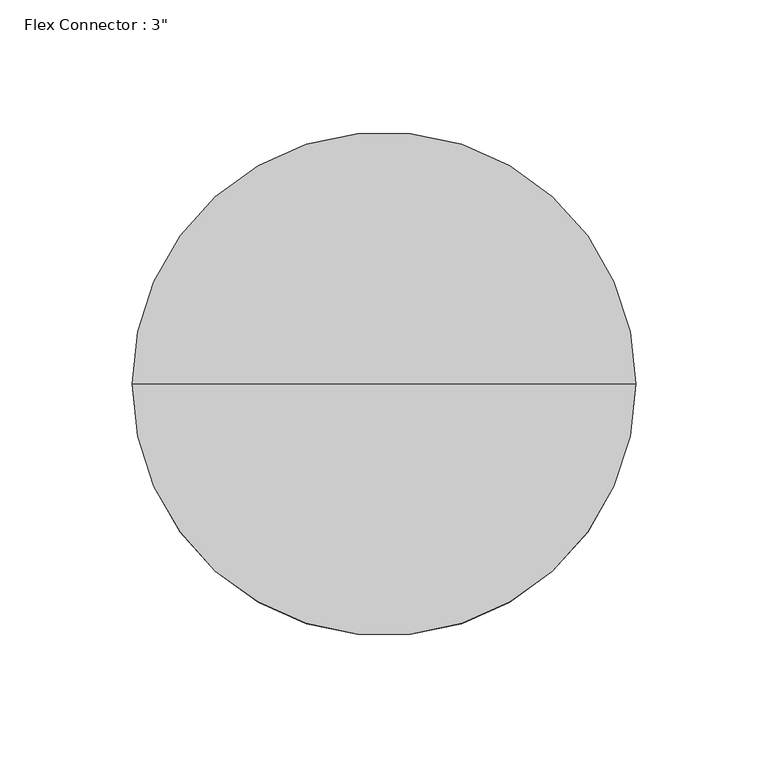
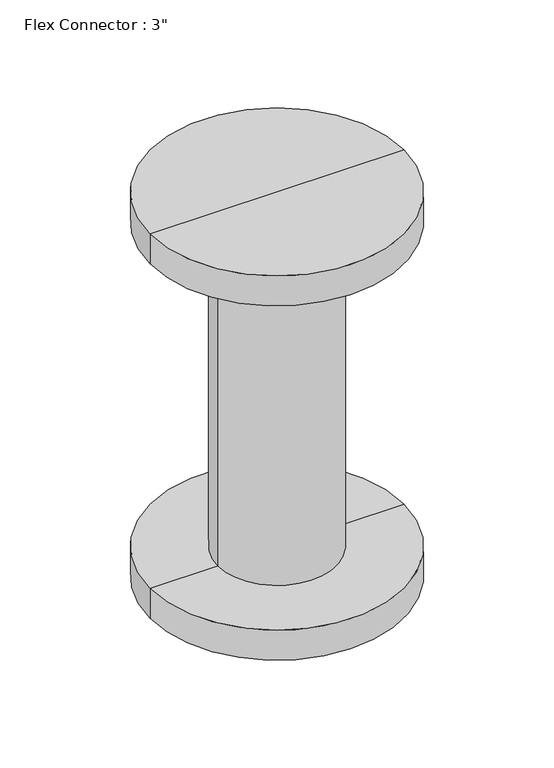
"""IFC4 building model written with IfcOpenShell, lengths in millimetres: valve geometry."""

from ifc_helpers import new_model, si_unit, frame, origin, place, context, project, spatial, circle_curve, source, transform, mapped, element, save
from ifc_brep_helpers import plane_surface, cylinder_surface, advanced_brep


def valve_cd73b2c5(model_context):
    return source(origin(), model_context, "Body", "AdvancedBrep", [
        advanced_brep(
        [(44.45, 0.0, 23.8125), (-44.45, 0.0, 23.8125), (-44.45, 0.0, 280.9875), (44.45, 0.0, 280.9875), (0.0, 0.0, 23.8125), (0.0, 0.0, 280.9875)],
        [
            (0, 1, circle_curve(frame((0.0, 0.0, 23.8125), z_axis=(0.0, 0.0, 1.0), x_axis=(-1.0, 0.0, 0.0)), 44.45)),
            (1, 2),
            (2, 3, circle_curve(frame((0.0, 0.0, 280.9875), z_axis=(0.0, 0.0, -1.0), x_axis=(-1.0, 0.0, 0.0)), 44.45)),
            (3, 0),
            (1, 0, circle_curve(frame((0.0, 0.0, 23.8125), z_axis=(0.0, 0.0, 1.0), x_axis=(-1.0, 0.0, 0.0)), 44.45)),
            (3, 2, circle_curve(frame((0.0, 0.0, 280.9875), z_axis=(0.0, 0.0, -1.0), x_axis=(-1.0, 0.0, 0.0)), 44.45)),
            (4, 1),
            (0, 4),
            (2, 5),
            (5, 3),
        ],
        [
            cylinder_surface(frame((0.0, 0.0, 2609.0581012), z_axis=(0.0, 0.0, -1.0), x_axis=(-1.0, 0.0, 0.0)), 44.45),
            plane_surface(frame((0.0, 0.0, 23.8125), z_axis=(0.0, 0.0, -1.0), x_axis=(-1.0, 0.0, 0.0))),
            plane_surface(frame((0.0, 0.0, 280.9875), z_axis=(0.0, 0.0, 1.0), x_axis=(-1.0, 0.0, 0.0))),
        ],
        [
            (0, [[1, 2, 3, 4]]),
            (0, [[5, -4, 6, -2]]),
            (1, [[7, -1, 8]]),
            (1, [[-8, -5, -7]]),
            (2, [[-3, 9, 10]]),
            (2, [[-6, -10, -9]]),
        ],
    ),
        advanced_brep(
        [(0.0, 0.0, 0.0), (-95.25, 0.0, 0.0), (95.25, 0.0, 0.0), (95.25, 0.0, 23.8125), (-95.25, 0.0, 23.8125), (0.0, 0.0, 23.8125)],
        [
            (0, 1),
            (1, 2, circle_curve(frame((0.0, 0.0, 0.0), z_axis=(0.0, 0.0, -1.0), x_axis=(-1.0, 0.0, 0.0)), 95.25)),
            (2, 0),
            (2, 1, circle_curve(frame((0.0, 0.0, 0.0), z_axis=(0.0, 0.0, -1.0), x_axis=(-1.0, 0.0, 0.0)), 95.25)),
            (3, 4, circle_curve(frame((0.0, 0.0, 23.8125), z_axis=(0.0, 0.0, 1.0), x_axis=(-1.0, 0.0, 0.0)), 95.25)),
            (4, 5),
            (5, 3),
            (4, 3, circle_curve(frame((0.0, 0.0, 23.8125), z_axis=(0.0, 0.0, 1.0), x_axis=(-1.0, 0.0, 0.0)), 95.25)),
            (1, 4),
            (3, 2),
        ],
        [
            plane_surface(frame((0.0, 0.0, 0.0), z_axis=(0.0, 0.0, -1.0), x_axis=(-1.0, 0.0, 0.0))),
            plane_surface(frame((0.0, 0.0, 23.8125), z_axis=(0.0, 0.0, 1.0), x_axis=(-1.0, 0.0, 0.0))),
            cylinder_surface(frame((0.0, 0.0, 2609.0581012), z_axis=(0.0, 0.0, -1.0), x_axis=(-1.0, 0.0, 0.0)), 95.25),
        ],
        [
            (0, [[1, 2, 3]]),
            (0, [[-3, 4, -1]]),
            (1, [[5, 6, 7]]),
            (1, [[8, -7, -6]]),
            (2, [[-2, 9, -5, 10]]),
            (2, [[-4, -10, -8, -9]]),
        ],
    ),
        advanced_brep(
        [(95.25, 0.0, 304.8), (-95.25, 0.0, 304.8), (0.0, 0.0, 304.8), (95.25, 0.0, 280.9875), (-95.25, 0.0, 280.9875), (0.0, 0.0, 280.9875)],
        [
            (0, 1, circle_curve(frame((0.0, 0.0, 304.8), z_axis=(0.0, 0.0, 1.0), x_axis=(-1.0, 0.0, 0.0)), 95.25)),
            (1, 2),
            (2, 0),
            (1, 0, circle_curve(frame((0.0, 0.0, 304.8), z_axis=(0.0, 0.0, 1.0), x_axis=(-1.0, 0.0, 0.0)), 95.25)),
            (3, 4, circle_curve(frame((0.0, 0.0, 280.9875), z_axis=(0.0, 0.0, 1.0), x_axis=(-1.0, 0.0, 0.0)), 95.25)),
            (4, 1),
            (0, 3),
            (4, 3, circle_curve(frame((0.0, 0.0, 280.9875), z_axis=(0.0, 0.0, 1.0), x_axis=(-1.0, 0.0, 0.0)), 95.25)),
            (5, 4),
            (3, 5),
        ],
        [
            plane_surface(frame((0.0, 0.0, 304.8), z_axis=(0.0, 0.0, 1.0), x_axis=(-1.0, 0.0, 0.0))),
            cylinder_surface(frame((0.0, 0.0, 2609.0581012), z_axis=(0.0, 0.0, -1.0), x_axis=(-1.0, 0.0, 0.0)), 95.25),
            plane_surface(frame((0.0, 0.0, 280.9875), z_axis=(0.0, 0.0, -1.0), x_axis=(-1.0, 0.0, 0.0))),
        ],
        [
            (0, [[1, 2, 3]]),
            (0, [[4, -3, -2]]),
            (1, [[5, 6, -1, 7]]),
            (1, [[8, -7, -4, -6]]),
            (2, [[9, -5, 10]]),
            (2, [[-10, -8, -9]]),
        ],
    ),
    ])


if __name__ == "__main__":
    model = new_model("IFC4")
    model_context = context("Model", 3, world=origin())
    ifc_project = project(units=[si_unit("LENGTHUNIT", "METRE", prefix="MILLI")], contexts=[model_context])
    site = spatial("IfcSite", under=ifc_project)
    building = spatial("IfcBuilding", under=site)
    placement = place(None, origin())
    valve_shape = valve_cd73b2c5(model_context)
    element("IfcValve", 1, ObjectType="Flex Connector : 3\"", at=placement, inside=building, context=model_context, shape_type="MappedRepresentation", body=[
        mapped(valve_shape, transform((0.0, 0.0, 0.0), x_axis=(1.0, 0.0, 0.0), y_axis=(0.0, 1.0, 0.0), z_axis=(0.0, 0.0, 1.0))),
    ])
    save(model, "model.ifc")
